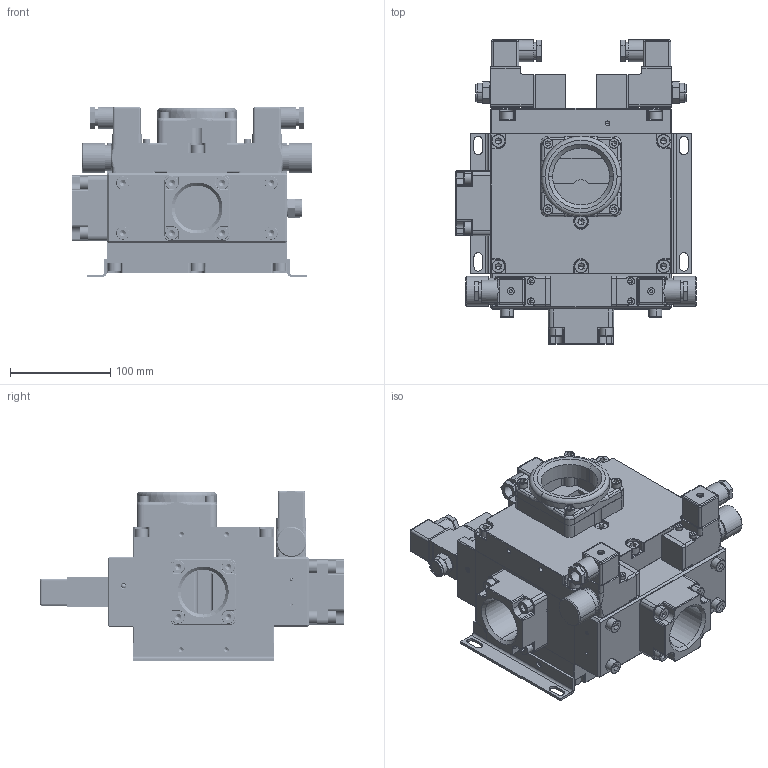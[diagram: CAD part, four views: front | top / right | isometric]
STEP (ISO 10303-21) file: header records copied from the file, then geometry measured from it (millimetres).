
FILE_DESCRIPTION (( 'STEP AP203' ), '1' );
FILE_NAME ('VSP-14.STEP', '2020-05-27T11:29:19', ( '' ), ( '' ), 'SwSTEP 2.0', 'SolidWorks 2019', '' );
FILE_SCHEMA (( 'CONFIG_CONTROL_DESIGN' ));
Products named in the file (1): VSP-14
Bounding box: 240 x 303.3 x 170 mm (x, y, z)
Volume: 3384856.3 mm3; surface area: 783972.3 mm2
Topology: 94 solids, 94 shells, 4354 faces, 10880 edges, 6780 vertices
Faces by surface type: plane 2097, cylinder 1423, cone 660, torus 112, bspline 34, sphere 28
Entity records: 135390 total; most frequent: CARTESIAN_POINT 31782, DIRECTION 21710, ORIENTED_EDGE 21196, EDGE_CURVE 10598, AXIS2_PLACEMENT_3D 7709, VERTEX_POINT 6762, LINE 6292, VECTOR 6292
